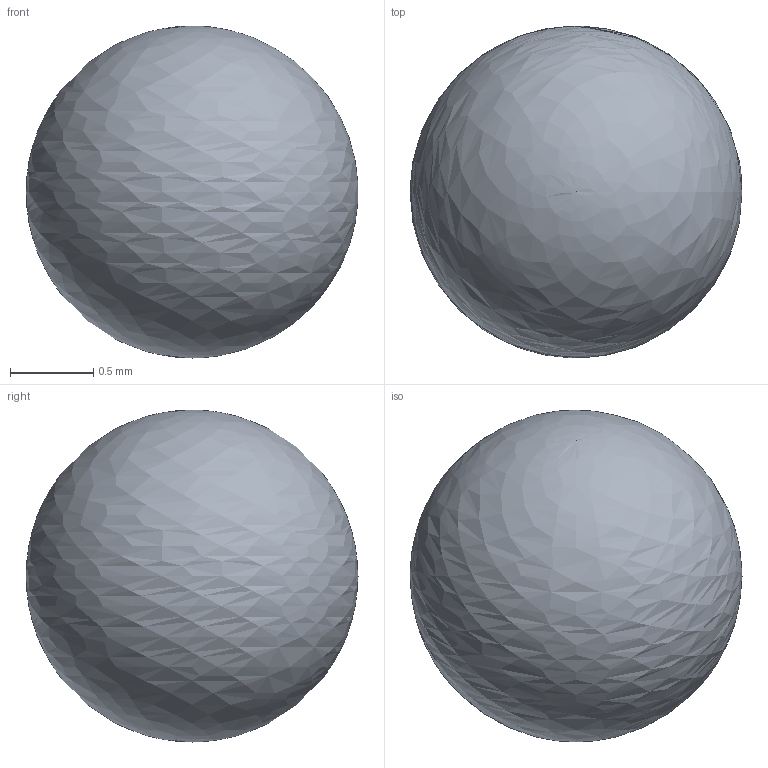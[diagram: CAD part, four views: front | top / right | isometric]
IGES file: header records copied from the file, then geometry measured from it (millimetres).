
Global section: file name: C:\Documents and Settings\colignon\Desktop\sphere_Rhino3D.igs; native system: Rhinoceros ( Mar 31 2006 ); preprocessor: Trout Lake IGES 012 Mar 31 2006; date: 070129.105434; units: millimetre
Bounding box: 2 x 2 x 2 mm (x, y, z)
Surface area: 12.6 mm2 (no closed solid volume)
Topology: 0 solids, 0 shells, 1 faces, 3 edges, 2 vertices
Faces by surface type: bspline 1
